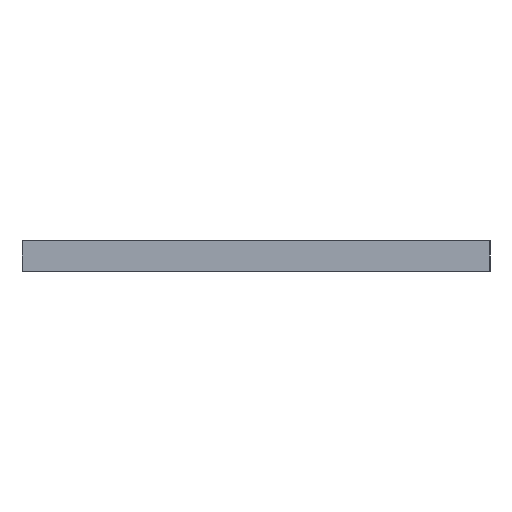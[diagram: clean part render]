
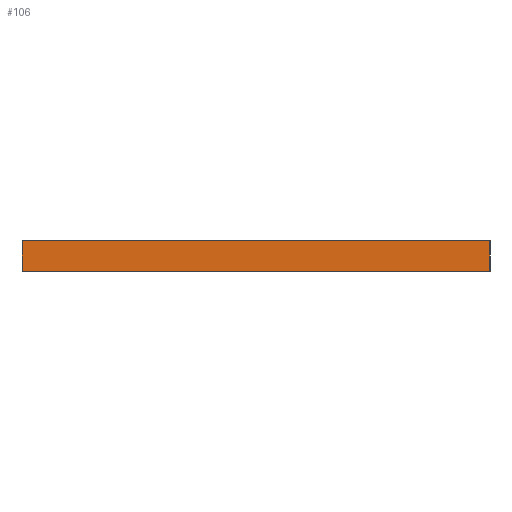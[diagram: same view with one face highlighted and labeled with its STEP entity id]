
A CAD part, left-side view. The second image highlights one B-rep face of the part: STEP entity #106.
In plain terms, the highlighted planar face has unit normal (-1, 0, 0).
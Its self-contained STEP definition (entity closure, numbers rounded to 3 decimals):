
#50 = VERTEX_POINT('',#51);
#51 = CARTESIAN_POINT('',(118.5,-123.,1.51));
#57 = EDGE_CURVE('',#58,#50,#60,.T.);
#58 = VERTEX_POINT('',#59);
#59 = CARTESIAN_POINT('',(118.5,-123.,0.));
#60 = LINE('',#61,#62);
#61 = CARTESIAN_POINT('',(118.5,-123.,0.));
#62 = VECTOR('',#63,1.);
#63 = DIRECTION('',(0.,0.,1.));
#106 = ADVANCED_FACE('',(#107),#132,.T.);
#107 = FACE_BOUND('',#108,.T.);
#108 = EDGE_LOOP('',(#109,#110,#118,#126));
#109 = ORIENTED_EDGE('',*,*,#57,.T.);
#110 = ORIENTED_EDGE('',*,*,#111,.T.);
#111 = EDGE_CURVE('',#50,#112,#114,.T.);
#112 = VERTEX_POINT('',#113);
#113 = CARTESIAN_POINT('',(118.5,-99.5,1.51));
#114 = LINE('',#115,#116);
#115 = CARTESIAN_POINT('',(118.5,-123.,1.51));
#116 = VECTOR('',#117,1.);
#117 = DIRECTION('',(0.,1.,0.));
#118 = ORIENTED_EDGE('',*,*,#119,.F.);
#119 = EDGE_CURVE('',#120,#112,#122,.T.);
#120 = VERTEX_POINT('',#121);
#121 = CARTESIAN_POINT('',(118.5,-99.5,0.));
#122 = LINE('',#123,#124);
#123 = CARTESIAN_POINT('',(118.5,-99.5,0.));
#124 = VECTOR('',#125,1.);
#125 = DIRECTION('',(0.,0.,1.));
#126 = ORIENTED_EDGE('',*,*,#127,.F.);
#127 = EDGE_CURVE('',#58,#120,#128,.T.);
#128 = LINE('',#129,#130);
#129 = CARTESIAN_POINT('',(118.5,-123.,0.));
#130 = VECTOR('',#131,1.);
#131 = DIRECTION('',(0.,1.,0.));
#132 = PLANE('',#133);
#133 = AXIS2_PLACEMENT_3D('',#134,#135,#136);
#134 = CARTESIAN_POINT('',(118.5,-123.,0.));
#135 = DIRECTION('',(-1.,0.,0.));
#136 = DIRECTION('',(0.,1.,0.));
